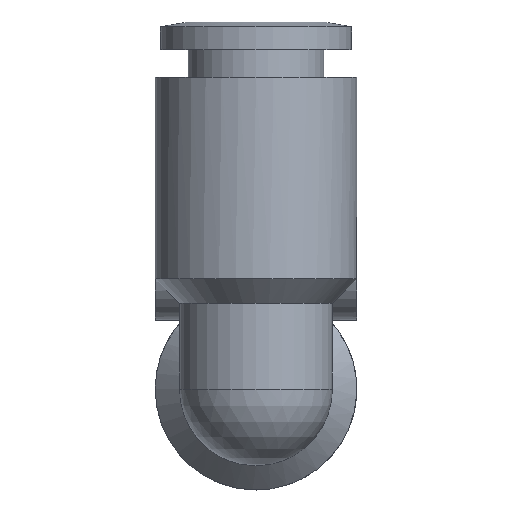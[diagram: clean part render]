
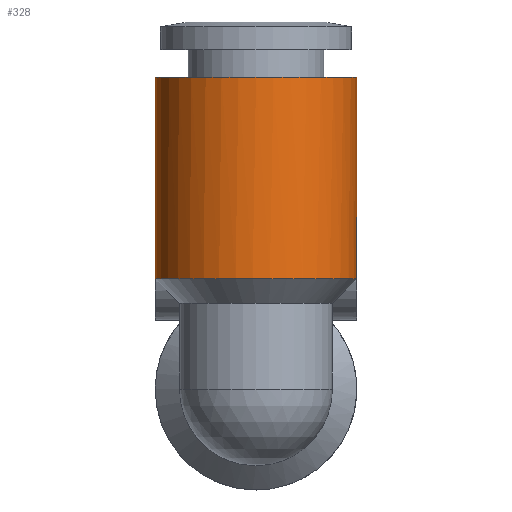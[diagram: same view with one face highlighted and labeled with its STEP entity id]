
A CAD part, front view. The second image highlights one B-rep face of the part: STEP entity #328.
In plain terms, the highlighted cylindrical face has radius 4.75 mm (diameter 9.5 mm), a full revolution.
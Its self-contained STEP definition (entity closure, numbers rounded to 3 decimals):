
#112=CARTESIAN_POINT('',(-3.349,3.369,5.2));
#113=VERTEX_POINT('',#112);
#114=CARTESIAN_POINT('',(3.349,3.369,5.2));
#115=VERTEX_POINT('',#114);
#132=CARTESIAN_POINT('',(3.349,3.369,5.2));
#133=CARTESIAN_POINT('',(3.424,3.294,5.448));
#134=CARTESIAN_POINT('',(3.462,3.253,5.719));
#135=CARTESIAN_POINT('',(3.464,3.25,5.973));
#136=CARTESIAN_POINT('',(3.465,3.249,6.106));
#137=CARTESIAN_POINT('',(3.457,3.257,6.242));
#138=CARTESIAN_POINT('',(3.439,3.276,6.38));
#139=CARTESIAN_POINT('',(3.404,3.313,6.643));
#140=CARTESIAN_POINT('',(3.329,3.391,6.902));
#141=CARTESIAN_POINT('',(3.222,3.49,7.124));
#142=CARTESIAN_POINT('',(3.155,3.552,7.262));
#143=CARTESIAN_POINT('',(3.08,3.618,7.382));
#144=CARTESIAN_POINT('',(2.985,3.695,7.499));
#145=CARTESIAN_POINT('',(2.856,3.799,7.659));
#146=CARTESIAN_POINT('',(2.693,3.918,7.802));
#147=CARTESIAN_POINT('',(2.528,4.021,7.91));
#148=CARTESIAN_POINT('',(2.439,4.077,7.968));
#149=CARTESIAN_POINT('',(2.349,4.13,8.018));
#150=CARTESIAN_POINT('',(2.252,4.182,8.064));
#151=CARTESIAN_POINT('',(1.901,4.371,8.23));
#152=CARTESIAN_POINT('',(1.482,4.535,8.33));
#153=CARTESIAN_POINT('',(1.047,4.633,8.386));
#154=CARTESIAN_POINT('',(0.764,4.697,8.423));
#155=CARTESIAN_POINT('',(0.474,4.735,8.442));
#156=CARTESIAN_POINT('',(0.194,4.746,8.447));
#157=CARTESIAN_POINT('',(0.014,4.753,8.451));
#158=CARTESIAN_POINT('',(-0.16,4.751,8.45));
#159=CARTESIAN_POINT('',(-0.341,4.738,8.443));
#160=CARTESIAN_POINT('',(-0.775,4.706,8.427));
#161=CARTESIAN_POINT('',(-1.223,4.61,8.38));
#162=CARTESIAN_POINT('',(-1.631,4.461,8.279));
#163=CARTESIAN_POINT('',(-1.905,4.361,8.212));
#164=CARTESIAN_POINT('',(-2.161,4.238,8.119));
#165=CARTESIAN_POINT('',(-2.384,4.108,7.996));
#166=CARTESIAN_POINT('',(-2.474,4.056,7.946));
#167=CARTESIAN_POINT('',(-2.56,4.002,7.892));
#168=CARTESIAN_POINT('',(-2.647,3.944,7.827));
#169=CARTESIAN_POINT('',(-2.782,3.853,7.724));
#170=CARTESIAN_POINT('',(-2.91,3.756,7.598));
#171=CARTESIAN_POINT('',(-3.014,3.671,7.463));
#172=CARTESIAN_POINT('',(-3.094,3.606,7.358));
#173=CARTESIAN_POINT('',(-3.159,3.548,7.252));
#174=CARTESIAN_POINT('',(-3.219,3.493,7.131));
#175=CARTESIAN_POINT('',(-3.33,3.391,6.903));
#176=CARTESIAN_POINT('',(-3.407,3.31,6.635));
#177=CARTESIAN_POINT('',(-3.441,3.274,6.364));
#178=CARTESIAN_POINT('',(-3.459,3.255,6.222));
#179=CARTESIAN_POINT('',(-3.466,3.248,6.082));
#180=CARTESIAN_POINT('',(-3.464,3.251,5.944));
#181=CARTESIAN_POINT('',(-3.459,3.256,5.699));
#182=CARTESIAN_POINT('',(-3.421,3.296,5.438));
#183=CARTESIAN_POINT('',(-3.349,3.369,5.2));
#184=B_SPLINE_CURVE_WITH_KNOTS('',3,(#132,#133,#134,#135,#136,#137,#138,#139,#140,#141,#142,#143,#144,#145,#146,#147,#148,#149,#150,#151,#152,#153,#154,#155,#156,#157,#158,#159,#160,#161,#162,#163,#164,#165,#166,#167,#168,#169,#170,#171,#172,#173,#174,#175,#176,#177,#178,#179,#180,#181,#182,#183),.UNSPECIFIED.,.F.,.U.,(4,3,3,3,3,3,3,3,3,3,3,3,3,3,3,3,3,4),(-0.568,-0.492,-0.452,-0.376,-0.328,-0.263,-0.228,-0.101,-0.019,0.034,0.16,0.245,0.279,0.333,0.375,0.454,0.495,0.568),.UNSPECIFIED.);
#185=EDGE_CURVE('',#115,#113,#184,.T.);
#302=CARTESIAN_POINT('',(0.0,0.,9.95));
#303=DIRECTION('',(0.0,0.,1.0));
#304=DIRECTION('',(-1.0,0.0,0.0));
#305=AXIS2_PLACEMENT_3D('',#302,#303,#304);
#306=CYLINDRICAL_SURFACE('',#305,4.75);
#307=CARTESIAN_POINT('',(-4.75,0.,14.7));
#308=VERTEX_POINT('',#307);
#309=CARTESIAN_POINT('',(0.0,0.,14.7));
#310=DIRECTION('',(0.0,0.0,1.0));
#311=DIRECTION('',(-1.0,0.0,0.0));
#312=AXIS2_PLACEMENT_3D('',#309,#310,#311);
#313=CIRCLE('',#312,4.75);
#314=EDGE_CURVE('',#308,#308,#313,.T.);
#315=ORIENTED_EDGE('',*,*,#314,.F.);
#316=EDGE_LOOP('',(#315));
#317=FACE_OUTER_BOUND('',#316,.T.);
#318=ORIENTED_EDGE('',*,*,#185,.T.);
#319=CARTESIAN_POINT('',(0.0,0.,5.2));
#320=DIRECTION('',(0.0,0.0,1.0));
#321=DIRECTION('',(-1.0,0.0,0.0));
#322=AXIS2_PLACEMENT_3D('',#319,#320,#321);
#323=CIRCLE('',#322,4.75);
#324=EDGE_CURVE('',#113,#115,#323,.T.);
#325=ORIENTED_EDGE('',*,*,#324,.T.);
#326=EDGE_LOOP('',(#318,#325));
#327=FACE_BOUND('',#326,.T.);
#328=ADVANCED_FACE('',(#317,#327),#306,.T.);
